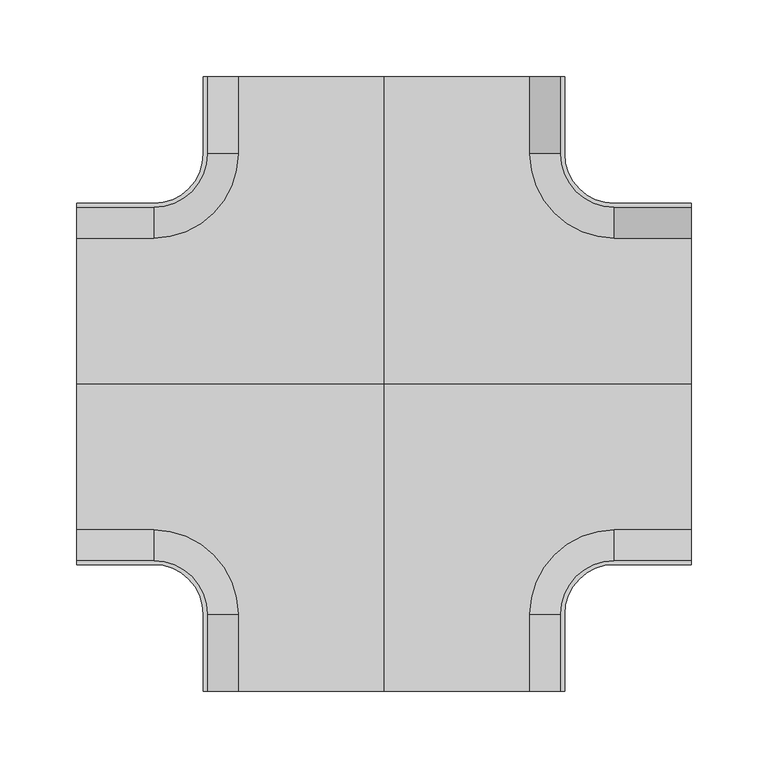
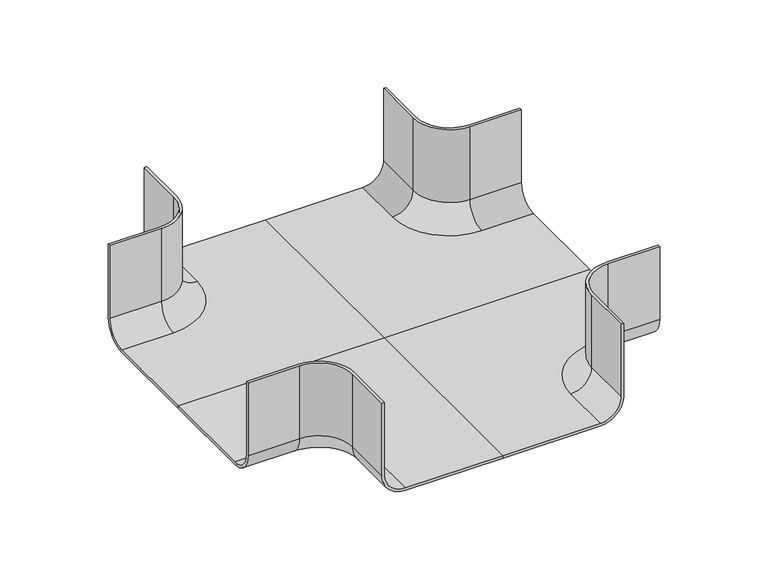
"""IFC4 building model written with IfcOpenShell, lengths in millimetres: cable carrier fitting geometry, CCT_Hyperline_FBTR-CRS_Ответвитель крестообразный пластиковый : Ответвитель крестообразный пластиковый."""

from ifc_helpers import new_model, si_unit, point, frame, origin, place, context, project, spatial, polyline, circle_curve, ellipse_curve, trimmed, source, transform, mapped, element, save
from ifc_brep_helpers import plane_surface, cylinder_surface, revolved_surface, advanced_brep


def cable_carrier_fitting_acd78cd3(model_context):
    return source(origin(), model_context, "Body", "AdvancedBrep", [
        advanced_brep(
        [(-200.0, -117.54, -25.0), (-200.0, -117.54, 50.0), (-200.0, -115.0, 50.0), (-200.0, -115.0, -25.0), (-200.0, -95.0, -45.0), (-200.0, 0.0, -45.0), (-200.0, 0.0, -47.54), (-200.0, -95.0, -47.54), (-150.0, -95.0, -47.54), (-150.0, -117.54, -25.0), (-150.0, -115.0, -25.0), (-150.0, -95.0, -45.0), (-150.0, -115.0, 50.0), (-150.0, -117.54, 50.0), (-117.54, -150.0, 50.0), (-117.54, -200.0, 50.0), (-115.0, -200.0, 50.0), (-115.0, -150.0, 50.0), (-95.0, -150.0, -47.54), (-117.54, -150.0, -25.0), (-115.0, -150.0, -25.0), (-95.0, -150.0, -45.0), (0.0, -200.0, -47.54), (0.0, -200.0, -45.0), (-95.0, -200.0, -45.0), (-115.0, -200.0, -25.0), (-117.54, -200.0, -25.0), (-95.0, -200.0, -47.54), (0.0, 0.0, -45.0), (0.0, 0.0, -47.54)],
        [
            (0, 1),
            (1, 2),
            (2, 3),
            (3, 4, circle_curve(frame((-200.0, -95.0, -25.0), z_axis=(1.0, 0.0, 0.0), x_axis=(0.0, -1.0, 0.0)), 20.0)),
            (4, 5),
            (5, 6),
            (6, 7),
            (7, 0, circle_curve(frame((-200.0, -95.0, -25.0), z_axis=(-1.0, 0.0, 0.0), x_axis=(0.0, -1.0, 0.0)), 22.54)),
            (7, 8),
            (8, 9, circle_curve(frame((-150.0, -95.0, -25.0), z_axis=(-1.0, 0.0, 0.0), x_axis=(0.0, -1.0, 0.0)), 22.54)),
            (9, 0),
            (3, 10),
            (10, 11, circle_curve(frame((-150.0, -95.0, -25.0), z_axis=(1.0, 0.0, 0.0), x_axis=(0.0, -1.0, 0.0)), 20.0)),
            (11, 4),
            (2, 12),
            (12, 10),
            (1, 13),
            (13, 14, circle_curve(frame((-150.0, -150.0, 50.0), z_axis=(0.0, 0.0, -1.0), x_axis=(0.0, 1.0, 0.0)), 32.46)),
            (14, 15),
            (15, 16),
            (16, 17),
            (17, 12, circle_curve(frame((-150.0, -150.0, 50.0), z_axis=(0.0, 0.0, 1.0), x_axis=(0.0, 1.0, 0.0)), 35.0)),
            (9, 13),
            (8, 18, circle_curve(frame((-150.0, -150.0, -47.54), z_axis=(0.0, 0.0, -1.0), x_axis=(0.0, 1.0, 0.0)), 55.0)),
            (18, 19, circle_curve(frame((-95.0, -150.0, -25.0), z_axis=(0.0, 1.0, 0.0), x_axis=(-1.0, 0.0, 0.0)), 22.54)),
            (19, 9, circle_curve(frame((-150.0, -150.0, -25.0), z_axis=(0.0, 0.0, 1.0), x_axis=(0.0, 1.0, 0.0)), 32.46)),
            (10, 20, circle_curve(frame((-150.0, -150.0, -25.0), z_axis=(0.0, 0.0, -1.0), x_axis=(0.0, 1.0, 0.0)), 35.0)),
            (20, 21, circle_curve(frame((-95.0, -150.0, -25.0), z_axis=(0.0, -1.0, 0.0), x_axis=(-1.0, 0.0, 0.0)), 20.0)),
            (21, 11, circle_curve(frame((-150.0, -150.0, -45.0), z_axis=(0.0, 0.0, 1.0), x_axis=(0.0, 1.0, 0.0)), 55.0)),
            (17, 20),
            (19, 14),
            (22, 23),
            (23, 24),
            (24, 25, circle_curve(frame((-95.0, -200.0, -25.0), z_axis=(0.0, 1.0, 0.0), x_axis=(-1.0, 0.0, 0.0)), 20.0)),
            (25, 16),
            (15, 26),
            (26, 27, circle_curve(frame((-95.0, -200.0, -25.0), z_axis=(0.0, -1.0, 0.0), x_axis=(-1.0, 0.0, 0.0)), 22.54)),
            (27, 22),
            (26, 19),
            (18, 27),
            (20, 25),
            (24, 21),
            (23, 28),
            (28, 5),
            (6, 29),
            (29, 22),
            (28, 29),
        ],
        [
            plane_surface(frame((-200.0, -115.0, 0.0), z_axis=(-1.0, 0.0, 0.0), x_axis=(0.0, 0.0, 1.0))),
            cylinder_surface(frame((-200.0, -95.0, -25.0), z_axis=(-1.0, 0.0, 0.0), x_axis=(0.0, -1.0, 0.0)), 22.54),
            revolved_surface(polyline([(-150.0, -115.0, -25.0), (-200.0, -115.0, -25.0)]), (-200.0, -95.0, -25.0), (1.0, 0.0, 0.0)),
            plane_surface(frame((-200.0, -115.0, -25.0), z_axis=(0.0, 1.0, 0.0), x_axis=(1.0, 0.0, 0.0))),
            plane_surface(frame((-200.0, -115.0, 50.0), z_axis=(0.0, 0.0, 1.0), x_axis=(1.0, 0.0, 0.0))),
            plane_surface(frame((-200.0, -117.54, 50.0), z_axis=(0.0, -1.0, 0.0), x_axis=(1.0, 0.0, 0.0))),
            revolved_surface(trimmed(ellipse_curve(frame((-150.0, -95.0, -25.0), z_axis=(1.0, 0.0, 0.0), x_axis=(0.0, -1.0, 0.0)), 22.54, 22.54), [point((-150.0, -117.54, -25.0))], [point((-150.0, -95.0, -47.54))], True, "CARTESIAN"), (-150.0, -150.0, 0.0), (0.0, 0.0, 1.0)),
            revolved_surface(trimmed(ellipse_curve(frame((-150.0, -95.0, -25.0), z_axis=(-1.0, 0.0, 0.0), x_axis=(0.0, -1.0, 0.0)), 20.0, 20.0), [point((-150.0, -95.0, -45.0))], [point((-150.0, -115.0, -25.0))], True, "CARTESIAN"), (-150.0, -150.0, 0.0), (0.0, 0.0, 1.0)),
            cylinder_surface(frame((-150.0, -150.0, 0.0), z_axis=(0.0, 0.0, 1.0), x_axis=(0.0, 1.0, 0.0)), 35.0),
            revolved_surface(polyline([(-150.0, -117.53999999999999, 50.0), (-150.0, -117.53999999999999, -25.0)]), (-150.0, -150.0, 0.0), (0.0, 0.0, 1.0)),
            plane_surface(frame((-115.0, -200.0, 0.0), z_axis=(0.0, -1.0, 0.0), x_axis=(0.0, 0.0, 1.0))),
            cylinder_surface(frame((-95.0, -150.0, -25.0), z_axis=(0.0, 1.0, 0.0), x_axis=(-1.0, 0.0, 0.0)), 22.54),
            revolved_surface(polyline([(-115.0, -200.0, -25.0), (-115.0, -150.0, -25.0)]), (-95.0, -150.0, -25.0), (0.0, -1.0, 0.0)),
            plane_surface(frame((-115.0, -150.0, -25.0), z_axis=(1.0, 0.0, 0.0), x_axis=(0.0, -1.0, 0.0))),
            plane_surface(frame((-117.54, -150.0, 50.0), z_axis=(-1.0, 0.0, 0.0), x_axis=(0.0, -1.0, 0.0))),
            plane_surface(frame((0.0, -150.0, -45.0), z_axis=(0.0, 0.0, 1.0), x_axis=(0.0, 1.0, 0.0))),
            plane_surface(frame((0.0, -150.0, -47.54), z_axis=(0.0, 0.0, -1.0), x_axis=(0.0, -1.0, 0.0))),
            plane_surface(frame((-150.0, 0.0, -45.0), z_axis=(0.0, 1.0, 0.0), x_axis=(0.0, 0.0, -1.0))),
            plane_surface(frame((0.0, 0.0, -45.0), z_axis=(1.0, 0.0, 0.0), x_axis=(0.0, 0.0, -1.0))),
        ],
        [
            (0, [[1, 2, 3, 4, 5, 6, 7, 8]]),
            (1, [[9, 10, 11, -8]]),
            (2, [[12, 13, 14, -4]]),
            (3, [[15, 16, -12, -3]]),
            (4, [[17, 18, 19, 20, 21, 22, -15, -2]]),
            (5, [[-11, 23, -17, -1]]),
            (6, [[24, 25, 26, -10]]),
            (7, [[-13, 27, 28, 29]]),
            (8, [[-22, 30, -27, -16]]),
            (9, [[-23, -26, 31, -18]]),
            (10, [[32, 33, 34, 35, -20, 36, 37, 38]]),
            (11, [[-37, 39, -25, 40]]),
            (12, [[-28, 41, -34, 42]]),
            (13, [[-35, -41, -30, -21]]),
            (14, [[-31, -39, -36, -19]]),
            (15, [[43, 44, -5, -14, -29, -42, -33]]),
            (16, [[45, 46, -38, -40, -24, -9, -7]]),
            (17, [[47, -45, -6, -44]]),
            (18, [[-32, -46, -47, -43]]),
        ],
    ),
        advanced_brep(
        [(200.0, -117.54, -25.0), (200.0, -95.0, -47.54), (200.0, 0.0, -47.54), (200.0, 0.0, -45.0), (200.0, -95.0, -45.0), (200.0, -115.0, -25.0), (200.0, -115.0, 50.0), (200.0, -117.54, 50.0), (150.0, -117.54, -25.0), (150.0, -95.0, -47.54), (150.0, -95.0, -45.0), (150.0, -115.0, -25.0), (150.0, -115.0, 50.0), (115.0, -150.0, 50.0), (115.0, -200.0, 50.0), (117.54, -200.0, 50.0), (117.54, -150.0, 50.0), (150.0, -117.54, 50.0), (117.54, -150.0, -25.0), (95.0, -150.0, -47.54), (95.0, -150.0, -45.0), (115.0, -150.0, -25.0), (0.0, -200.0, -47.54), (95.0, -200.0, -47.54), (117.54, -200.0, -25.0), (115.0, -200.0, -25.0), (95.0, -200.0, -45.0), (0.0, -200.0, -45.0), (0.0, 0.0, -45.0), (0.0, 0.0, -47.54)],
        [
            (0, 1, circle_curve(frame((200.0, -95.0, -25.0), z_axis=(1.0, 0.0, 0.0), x_axis=(0.0, -1.0, 0.0)), 22.54)),
            (1, 2),
            (2, 3),
            (3, 4),
            (4, 5, circle_curve(frame((200.0, -95.0, -25.0), z_axis=(-1.0, 0.0, 0.0), x_axis=(0.0, -1.0, 0.0)), 20.0)),
            (5, 6),
            (6, 7),
            (7, 0),
            (0, 8),
            (8, 9, circle_curve(frame((150.0, -95.0, -25.0), z_axis=(1.0, 0.0, 0.0), x_axis=(0.0, -1.0, 0.0)), 22.54)),
            (9, 1),
            (4, 10),
            (10, 11, circle_curve(frame((150.0, -95.0, -25.0), z_axis=(-1.0, 0.0, 0.0), x_axis=(0.0, -1.0, 0.0)), 20.0)),
            (11, 5),
            (11, 12),
            (12, 6),
            (12, 13, circle_curve(frame((150.0, -150.0, 50.0), z_axis=(0.0, 0.0, 1.0), x_axis=(0.0, 1.0, 0.0)), 35.0)),
            (13, 14),
            (14, 15),
            (15, 16),
            (16, 17, circle_curve(frame((150.0, -150.0, 50.0), z_axis=(0.0, 0.0, -1.0), x_axis=(0.0, 1.0, 0.0)), 32.46)),
            (17, 7),
            (17, 8),
            (8, 18, circle_curve(frame((150.0, -150.0, -25.0), z_axis=(0.0, 0.0, 1.0), x_axis=(0.0, 1.0, 0.0)), 32.46)),
            (18, 19, circle_curve(frame((95.0, -150.0, -25.0), z_axis=(0.0, 1.0, 0.0), x_axis=(1.0, 0.0, 0.0)), 22.54)),
            (19, 9, circle_curve(frame((150.0, -150.0, -47.54), z_axis=(0.0, 0.0, -1.0), x_axis=(0.0, 1.0, 0.0)), 55.0)),
            (10, 20, circle_curve(frame((150.0, -150.0, -45.0), z_axis=(0.0, 0.0, 1.0), x_axis=(0.0, 1.0, 0.0)), 55.0)),
            (20, 21, circle_curve(frame((95.0, -150.0, -25.0), z_axis=(0.0, -1.0, 0.0), x_axis=(1.0, 0.0, 0.0)), 20.0)),
            (21, 11, circle_curve(frame((150.0, -150.0, -25.0), z_axis=(0.0, 0.0, -1.0), x_axis=(0.0, 1.0, 0.0)), 35.0)),
            (21, 13),
            (16, 18),
            (22, 23),
            (23, 24, circle_curve(frame((95.0, -200.0, -25.0), z_axis=(0.0, -1.0, 0.0), x_axis=(1.0, 0.0, 0.0)), 22.54)),
            (24, 15),
            (14, 25),
            (25, 26, circle_curve(frame((95.0, -200.0, -25.0), z_axis=(0.0, 1.0, 0.0), x_axis=(1.0, 0.0, 0.0)), 20.0)),
            (26, 27),
            (27, 22),
            (23, 19),
            (18, 24),
            (20, 26),
            (25, 21),
            (3, 28),
            (28, 27),
            (22, 29),
            (29, 2),
            (29, 28),
        ],
        [
            plane_surface(frame((200.0, -115.0, 0.0), z_axis=(1.0, 0.0, 0.0), x_axis=(0.0, 0.0, 1.0))),
            cylinder_surface(frame((200.0, -95.0, -25.0), z_axis=(1.0, 0.0, 0.0), x_axis=(0.0, -1.0, 0.0)), 22.54),
            revolved_surface(polyline([(150.0, -115.0, -25.0), (200.0, -115.0, -25.0)]), (200.0, -95.0, -25.0), (-1.0, 0.0, 0.0)),
            plane_surface(frame((200.0, -115.0, -25.0), z_axis=(0.0, 1.0, 0.0), x_axis=(-1.0, 0.0, 0.0))),
            plane_surface(frame((200.0, -115.0, 50.0), z_axis=(0.0, 0.0, 1.0), x_axis=(-1.0, 0.0, 0.0))),
            plane_surface(frame((200.0, -117.54, 50.0), z_axis=(0.0, -1.0, 0.0), x_axis=(-1.0, 0.0, 0.0))),
            revolved_surface(trimmed(ellipse_curve(frame((150.0, -95.0, -25.0), z_axis=(1.0, 0.0, 0.0), x_axis=(0.0, -1.0, 0.0)), 22.54, 22.54), [point((150.0, -117.54, -25.0))], [point((150.0, -95.0, -47.54))], True, "CARTESIAN"), (150.0, -150.0, 0.0), (0.0, 0.0, 1.0)),
            revolved_surface(trimmed(ellipse_curve(frame((150.0, -95.0, -25.0), z_axis=(-1.0, 0.0, 0.0), x_axis=(0.0, -1.0, 0.0)), 20.0, 20.0), [point((150.0, -95.0, -45.0))], [point((150.0, -115.0, -25.0))], True, "CARTESIAN"), (150.0, -150.0, 0.0), (0.0, 0.0, 1.0)),
            cylinder_surface(frame((150.0, -150.0, 0.0), z_axis=(0.0, 0.0, 1.0), x_axis=(0.0, 1.0, 0.0)), 35.0),
            revolved_surface(polyline([(150.0, -117.53999999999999, 50.0), (150.0, -117.53999999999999, -25.0)]), (150.0, -150.0, 0.0), (0.0, 0.0, 1.0)),
            plane_surface(frame((115.0, -200.0, 0.0), z_axis=(0.0, -1.0, 0.0), x_axis=(0.0, 0.0, 1.0))),
            cylinder_surface(frame((95.0, -150.0, -25.0), z_axis=(0.0, 1.0, 0.0), x_axis=(1.0, 0.0, 0.0)), 22.54),
            revolved_surface(polyline([(115.0, -200.0, -25.0), (115.0, -150.0, -25.0)]), (95.0, -150.0, -25.0), (0.0, -1.0, 0.0)),
            plane_surface(frame((115.0, -150.0, -25.0), z_axis=(-1.0, 0.0, 0.0), x_axis=(0.0, -1.0, 0.0))),
            plane_surface(frame((117.54, -150.0, 50.0), z_axis=(1.0, 0.0, 0.0), x_axis=(0.0, -1.0, 0.0))),
            plane_surface(frame((0.0, -150.0, -45.0), z_axis=(0.0, 0.0, 1.0), x_axis=(0.0, 1.0, 0.0))),
            plane_surface(frame((0.0, -150.0, -47.54), z_axis=(0.0, 0.0, -1.0), x_axis=(0.0, -1.0, 0.0))),
            plane_surface(frame((150.0, 0.0, -45.0), z_axis=(0.0, 1.0, 0.0), x_axis=(0.0, 0.0, -1.0))),
            plane_surface(frame((0.0, 0.0, -45.0), z_axis=(-1.0, 0.0, 0.0), x_axis=(0.0, 0.0, -1.0))),
        ],
        [
            (0, [[1, 2, 3, 4, 5, 6, 7, 8]]),
            (1, [[-1, 9, 10, 11]]),
            (2, [[-5, 12, 13, 14]]),
            (3, [[-6, -14, 15, 16]]),
            (4, [[-7, -16, 17, 18, 19, 20, 21, 22]]),
            (5, [[-8, -22, 23, -9]]),
            (6, [[-10, 24, 25, 26]]),
            (7, [[27, 28, 29, -13]]),
            (8, [[-15, -29, 30, -17]]),
            (9, [[-21, 31, -24, -23]]),
            (10, [[32, 33, 34, -19, 35, 36, 37, 38]]),
            (11, [[39, -25, 40, -33]]),
            (12, [[41, -36, 42, -28]]),
            (13, [[-18, -30, -42, -35]]),
            (14, [[-20, -34, -40, -31]]),
            (15, [[-37, -41, -27, -12, -4, 43, 44]]),
            (16, [[-2, -11, -26, -39, -32, 45, 46]]),
            (17, [[-43, -3, -46, 47]]),
            (18, [[-44, -47, -45, -38]]),
        ],
    ),
        advanced_brep(
        [(-200.0, 117.54, -25.0), (-200.0, 95.0, -47.54), (-200.0, 0.0, -47.54), (-200.0, 0.0, -45.0), (-200.0, 95.0, -45.0), (-200.0, 115.0, -25.0), (-200.0, 115.0, 50.0), (-200.0, 117.54, 50.0), (-150.0, 117.54, -25.0), (-150.0, 95.0, -47.54), (-150.0, 95.0, -45.0), (-150.0, 115.0, -25.0), (-150.0, 115.0, 50.0), (-115.0, 150.0, 50.0), (-115.0, 200.0, 50.0), (-117.54, 200.0, 50.0), (-117.54, 150.0, 50.0), (-150.0, 117.54, 50.0), (-117.54, 150.0, -25.0), (-95.0, 150.0, -47.54), (-95.0, 150.0, -45.0), (-115.0, 150.0, -25.0), (0.0, 200.0, -47.54), (-95.0, 200.0, -47.54), (-117.54, 200.0, -25.0), (-115.0, 200.0, -25.0), (-95.0, 200.0, -45.0), (0.0, 200.0, -45.0), (0.0, 0.0, -45.0), (0.0, 0.0, -47.54)],
        [
            (0, 1, circle_curve(frame((-200.0, 95.0, -25.0), z_axis=(-1.0, 0.0, 0.0), x_axis=(0.0, 1.0, 0.0)), 22.54)),
            (1, 2),
            (2, 3),
            (3, 4),
            (4, 5, circle_curve(frame((-200.0, 95.0, -25.0), z_axis=(1.0, 0.0, 0.0), x_axis=(0.0, 1.0, 0.0)), 20.0)),
            (5, 6),
            (6, 7),
            (7, 0),
            (0, 8),
            (8, 9, circle_curve(frame((-150.0, 95.0, -25.0), z_axis=(-1.0, 0.0, 0.0), x_axis=(0.0, 1.0, 0.0)), 22.54)),
            (9, 1),
            (4, 10),
            (10, 11, circle_curve(frame((-150.0, 95.0, -25.0), z_axis=(1.0, 0.0, 0.0), x_axis=(0.0, 1.0, 0.0)), 20.0)),
            (11, 5),
            (11, 12),
            (12, 6),
            (12, 13, circle_curve(frame((-150.0, 150.0, 50.0), z_axis=(0.0, 0.0, 1.0), x_axis=(0.0, -1.0, 0.0)), 35.0)),
            (13, 14),
            (14, 15),
            (15, 16),
            (16, 17, circle_curve(frame((-150.0, 150.0, 50.0), z_axis=(0.0, 0.0, -1.0), x_axis=(0.0, -1.0, 0.0)), 32.46)),
            (17, 7),
            (17, 8),
            (8, 18, circle_curve(frame((-150.0, 150.0, -25.0), z_axis=(0.0, 0.0, 1.0), x_axis=(0.0, -1.0, 0.0)), 32.46)),
            (18, 19, circle_curve(frame((-95.0, 150.0, -25.0), z_axis=(0.0, -1.0, 0.0), x_axis=(-1.0, 0.0, 0.0)), 22.54)),
            (19, 9, circle_curve(frame((-150.0, 150.0, -47.54), z_axis=(0.0, 0.0, -1.0), x_axis=(0.0, -1.0, 0.0)), 55.0)),
            (10, 20, circle_curve(frame((-150.0, 150.0, -45.0), z_axis=(0.0, 0.0, 1.0), x_axis=(0.0, -1.0, 0.0)), 55.0)),
            (20, 21, circle_curve(frame((-95.0, 150.0, -25.0), z_axis=(0.0, 1.0, 0.0), x_axis=(-1.0, 0.0, 0.0)), 20.0)),
            (21, 11, circle_curve(frame((-150.0, 150.0, -25.0), z_axis=(0.0, 0.0, -1.0), x_axis=(0.0, -1.0, 0.0)), 35.0)),
            (21, 13),
            (16, 18),
            (22, 23),
            (23, 24, circle_curve(frame((-95.0, 200.0, -25.0), z_axis=(0.0, 1.0, 0.0), x_axis=(-1.0, 0.0, 0.0)), 22.54)),
            (24, 15),
            (14, 25),
            (25, 26, circle_curve(frame((-95.0, 200.0, -25.0), z_axis=(0.0, -1.0, 0.0), x_axis=(-1.0, 0.0, 0.0)), 20.0)),
            (26, 27),
            (27, 22),
            (23, 19),
            (18, 24),
            (20, 26),
            (25, 21),
            (3, 28),
            (28, 27),
            (22, 29),
            (29, 2),
            (29, 28),
        ],
        [
            plane_surface(frame((-200.0, 115.0, 0.0), z_axis=(-1.0, 0.0, 0.0), x_axis=(0.0, 0.0, 1.0))),
            cylinder_surface(frame((-200.0, 95.0, -25.0), z_axis=(-1.0, 0.0, 0.0), x_axis=(0.0, 1.0, 0.0)), 22.54),
            revolved_surface(polyline([(-150.0, 115.0, -25.0), (-200.0, 115.0, -25.0)]), (-200.0, 95.0, -25.0), (1.0, 0.0, 0.0)),
            plane_surface(frame((-200.0, 115.0, -25.0), z_axis=(0.0, -1.0, 0.0), x_axis=(1.0, 0.0, 0.0))),
            plane_surface(frame((-200.0, 115.0, 50.0), z_axis=(0.0, 0.0, 1.0), x_axis=(1.0, 0.0, 0.0))),
            plane_surface(frame((-200.0, 117.54, 50.0), z_axis=(0.0, 1.0, 0.0), x_axis=(1.0, 0.0, 0.0))),
            revolved_surface(trimmed(ellipse_curve(frame((-150.0, 95.0, -25.0), z_axis=(-1.0, 0.0, 0.0), x_axis=(0.0, 1.0, 0.0)), 22.54, 22.54), [point((-150.0, 117.54, -25.0))], [point((-150.0, 95.0, -47.54))], True, "CARTESIAN"), (-150.0, 150.0, 0.0), (0.0, 0.0, 1.0)),
            revolved_surface(trimmed(ellipse_curve(frame((-150.0, 95.0, -25.0), z_axis=(1.0, 0.0, 0.0), x_axis=(0.0, 1.0, 0.0)), 20.0, 20.0), [point((-150.0, 95.0, -45.0))], [point((-150.0, 115.0, -25.0))], True, "CARTESIAN"), (-150.0, 150.0, 0.0), (0.0, 0.0, 1.0)),
            cylinder_surface(frame((-150.0, 150.0, 0.0), z_axis=(0.0, 0.0, 1.0), x_axis=(0.0, -1.0, 0.0)), 35.0),
            revolved_surface(polyline([(-150.0, 117.53999999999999, 50.0), (-150.0, 117.53999999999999, -25.0)]), (-150.0, 150.0, 0.0), (0.0, 0.0, 1.0)),
            plane_surface(frame((-115.0, 200.0, 0.0), z_axis=(0.0, 1.0, 0.0), x_axis=(0.0, 0.0, 1.0))),
            cylinder_surface(frame((-95.0, 150.0, -25.0), z_axis=(0.0, -1.0, 0.0), x_axis=(-1.0, 0.0, 0.0)), 22.54),
            revolved_surface(polyline([(-115.0, 200.0, -25.0), (-115.0, 150.0, -25.0)]), (-95.0, 150.0, -25.0), (0.0, 1.0, 0.0)),
            plane_surface(frame((-115.0, 150.0, -25.0), z_axis=(1.0, 0.0, 0.0), x_axis=(0.0, 1.0, 0.0))),
            plane_surface(frame((-117.54, 150.0, 50.0), z_axis=(-1.0, 0.0, 0.0), x_axis=(0.0, 1.0, 0.0))),
            plane_surface(frame((0.0, 150.0, -45.0), z_axis=(0.0, 0.0, 1.0), x_axis=(0.0, -1.0, 0.0))),
            plane_surface(frame((0.0, 150.0, -47.54), z_axis=(0.0, 0.0, -1.0), x_axis=(0.0, 1.0, 0.0))),
            plane_surface(frame((-150.0, 0.0, -45.0), z_axis=(0.0, -1.0, 0.0), x_axis=(0.0, 0.0, -1.0))),
            plane_surface(frame((0.0, 0.0, -45.0), z_axis=(1.0, 0.0, 0.0), x_axis=(0.0, 0.0, -1.0))),
        ],
        [
            (0, [[1, 2, 3, 4, 5, 6, 7, 8]]),
            (1, [[-1, 9, 10, 11]]),
            (2, [[-5, 12, 13, 14]]),
            (3, [[-6, -14, 15, 16]]),
            (4, [[-7, -16, 17, 18, 19, 20, 21, 22]]),
            (5, [[-8, -22, 23, -9]]),
            (6, [[-10, 24, 25, 26]]),
            (7, [[27, 28, 29, -13]]),
            (8, [[-15, -29, 30, -17]]),
            (9, [[-21, 31, -24, -23]]),
            (10, [[32, 33, 34, -19, 35, 36, 37, 38]]),
            (11, [[39, -25, 40, -33]]),
            (12, [[41, -36, 42, -28]]),
            (13, [[-18, -30, -42, -35]]),
            (14, [[-20, -34, -40, -31]]),
            (15, [[-37, -41, -27, -12, -4, 43, 44]]),
            (16, [[-2, -11, -26, -39, -32, 45, 46]]),
            (17, [[-43, -3, -46, 47]]),
            (18, [[-44, -47, -45, -38]]),
        ],
    ),
        advanced_brep(
        [(200.0, 117.54, -25.0), (200.0, 117.54, 50.0), (200.0, 115.0, 50.0), (200.0, 115.0, -25.0), (200.0, 95.0, -45.0), (200.0, 0.0, -45.0), (200.0, 0.0, -47.54), (200.0, 95.0, -47.54), (150.0, 95.0, -47.54), (150.0, 117.54, -25.0), (150.0, 115.0, -25.0), (150.0, 95.0, -45.0), (150.0, 115.0, 50.0), (150.0, 117.54, 50.0), (117.54, 150.0, 50.0), (117.54, 200.0, 50.0), (115.0, 200.0, 50.0), (115.0, 150.0, 50.0), (95.0, 150.0, -47.54), (117.54, 150.0, -25.0), (115.0, 150.0, -25.0), (95.0, 150.0, -45.0), (0.0, 200.0, -47.54), (0.0, 200.0, -45.0), (95.0, 200.0, -45.0), (115.0, 200.0, -25.0), (117.54, 200.0, -25.0), (95.0, 200.0, -47.54), (0.0, 0.0, -45.0), (0.0, 0.0, -47.54)],
        [
            (0, 1),
            (1, 2),
            (2, 3),
            (3, 4, circle_curve(frame((200.0, 95.0, -25.0), z_axis=(-1.0, 0.0, 0.0), x_axis=(0.0, 1.0, 0.0)), 20.0)),
            (4, 5),
            (5, 6),
            (6, 7),
            (7, 0, circle_curve(frame((200.0, 95.0, -25.0), z_axis=(1.0, 0.0, 0.0), x_axis=(0.0, 1.0, 0.0)), 22.54)),
            (7, 8),
            (8, 9, circle_curve(frame((150.0, 95.0, -25.0), z_axis=(1.0, 0.0, 0.0), x_axis=(0.0, 1.0, 0.0)), 22.54)),
            (9, 0),
            (3, 10),
            (10, 11, circle_curve(frame((150.0, 95.0, -25.0), z_axis=(-1.0, 0.0, 0.0), x_axis=(0.0, 1.0, 0.0)), 20.0)),
            (11, 4),
            (2, 12),
            (12, 10),
            (1, 13),
            (13, 14, circle_curve(frame((150.0, 150.0, 50.0), z_axis=(0.0, 0.0, -1.0), x_axis=(0.0, -1.0, 0.0)), 32.46)),
            (14, 15),
            (15, 16),
            (16, 17),
            (17, 12, circle_curve(frame((150.0, 150.0, 50.0), z_axis=(0.0, 0.0, 1.0), x_axis=(0.0, -1.0, 0.0)), 35.0)),
            (9, 13),
            (8, 18, circle_curve(frame((150.0, 150.0, -47.54), z_axis=(0.0, 0.0, -1.0), x_axis=(0.0, -1.0, 0.0)), 55.0)),
            (18, 19, circle_curve(frame((95.0, 150.0, -25.0), z_axis=(0.0, -1.0, 0.0), x_axis=(1.0, 0.0, 0.0)), 22.54)),
            (19, 9, circle_curve(frame((150.0, 150.0, -25.0), z_axis=(0.0, 0.0, 1.0), x_axis=(0.0, -1.0, 0.0)), 32.46)),
            (10, 20, circle_curve(frame((150.0, 150.0, -25.0), z_axis=(0.0, 0.0, -1.0), x_axis=(0.0, -1.0, 0.0)), 35.0)),
            (20, 21, circle_curve(frame((95.0, 150.0, -25.0), z_axis=(0.0, 1.0, 0.0), x_axis=(1.0, 0.0, 0.0)), 20.0)),
            (21, 11, circle_curve(frame((150.0, 150.0, -45.0), z_axis=(0.0, 0.0, 1.0), x_axis=(0.0, -1.0, 0.0)), 55.0)),
            (17, 20),
            (19, 14),
            (22, 23),
            (23, 24),
            (24, 25, circle_curve(frame((95.0, 200.0, -25.0), z_axis=(0.0, -1.0, 0.0), x_axis=(1.0, 0.0, 0.0)), 20.0)),
            (25, 16),
            (15, 26),
            (26, 27, circle_curve(frame((95.0, 200.0, -25.0), z_axis=(0.0, 1.0, 0.0), x_axis=(1.0, 0.0, 0.0)), 22.54)),
            (27, 22),
            (26, 19),
            (18, 27),
            (20, 25),
            (24, 21),
            (23, 28),
            (28, 5),
            (6, 29),
            (29, 22),
            (28, 29),
        ],
        [
            plane_surface(frame((200.0, 115.0, 0.0), z_axis=(1.0, 0.0, 0.0), x_axis=(0.0, 0.0, 1.0))),
            cylinder_surface(frame((200.0, 95.0, -25.0), z_axis=(1.0, 0.0, 0.0), x_axis=(0.0, 1.0, 0.0)), 22.54),
            revolved_surface(polyline([(150.0, 115.0, -25.0), (200.0, 115.0, -25.0)]), (200.0, 95.0, -25.0), (-1.0, 0.0, 0.0)),
            plane_surface(frame((200.0, 115.0, -25.0), z_axis=(0.0, -1.0, 0.0), x_axis=(-1.0, 0.0, 0.0))),
            plane_surface(frame((200.0, 115.0, 50.0), z_axis=(0.0, 0.0, 1.0), x_axis=(-1.0, 0.0, 0.0))),
            plane_surface(frame((200.0, 117.54, 50.0), z_axis=(0.0, 1.0, 0.0), x_axis=(-1.0, 0.0, 0.0))),
            revolved_surface(trimmed(ellipse_curve(frame((150.0, 95.0, -25.0), z_axis=(-1.0, 0.0, 0.0), x_axis=(0.0, 1.0, 0.0)), 22.54, 22.54), [point((150.0, 117.54, -25.0))], [point((150.0, 95.0, -47.54))], True, "CARTESIAN"), (150.0, 150.0, 0.0), (0.0, 0.0, 1.0)),
            revolved_surface(trimmed(ellipse_curve(frame((150.0, 95.0, -25.0), z_axis=(1.0, 0.0, 0.0), x_axis=(0.0, 1.0, 0.0)), 20.0, 20.0), [point((150.0, 95.0, -45.0))], [point((150.0, 115.0, -25.0))], True, "CARTESIAN"), (150.0, 150.0, 0.0), (0.0, 0.0, 1.0)),
            cylinder_surface(frame((150.0, 150.0, 0.0), z_axis=(0.0, 0.0, 1.0), x_axis=(0.0, -1.0, 0.0)), 35.0),
            revolved_surface(polyline([(150.0, 117.53999999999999, 50.0), (150.0, 117.53999999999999, -25.0)]), (150.0, 150.0, 0.0), (0.0, 0.0, 1.0)),
            plane_surface(frame((115.0, 200.0, 0.0), z_axis=(0.0, 1.0, 0.0), x_axis=(0.0, 0.0, 1.0))),
            cylinder_surface(frame((95.0, 150.0, -25.0), z_axis=(0.0, -1.0, 0.0), x_axis=(1.0, 0.0, 0.0)), 22.54),
            revolved_surface(polyline([(115.0, 200.0, -25.0), (115.0, 150.0, -25.0)]), (95.0, 150.0, -25.0), (0.0, 1.0, 0.0)),
            plane_surface(frame((115.0, 150.0, -25.0), z_axis=(-1.0, 0.0, 0.0), x_axis=(0.0, 1.0, 0.0))),
            plane_surface(frame((117.54, 150.0, 50.0), z_axis=(1.0, 0.0, 0.0), x_axis=(0.0, 1.0, 0.0))),
            plane_surface(frame((0.0, 150.0, -45.0), z_axis=(0.0, 0.0, 1.0), x_axis=(0.0, -1.0, 0.0))),
            plane_surface(frame((0.0, 150.0, -47.54), z_axis=(0.0, 0.0, -1.0), x_axis=(0.0, 1.0, 0.0))),
            plane_surface(frame((150.0, 0.0, -45.0), z_axis=(0.0, -1.0, 0.0), x_axis=(0.0, 0.0, -1.0))),
            plane_surface(frame((0.0, 0.0, -45.0), z_axis=(-1.0, 0.0, 0.0), x_axis=(0.0, 0.0, -1.0))),
        ],
        [
            (0, [[1, 2, 3, 4, 5, 6, 7, 8]]),
            (1, [[9, 10, 11, -8]]),
            (2, [[12, 13, 14, -4]]),
            (3, [[15, 16, -12, -3]]),
            (4, [[17, 18, 19, 20, 21, 22, -15, -2]]),
            (5, [[-11, 23, -17, -1]]),
            (6, [[24, 25, 26, -10]]),
            (7, [[-13, 27, 28, 29]]),
            (8, [[-22, 30, -27, -16]]),
            (9, [[-23, -26, 31, -18]]),
            (10, [[32, 33, 34, 35, -20, 36, 37, 38]]),
            (11, [[-37, 39, -25, 40]]),
            (12, [[-28, 41, -34, 42]]),
            (13, [[-35, -41, -30, -21]]),
            (14, [[-31, -39, -36, -19]]),
            (15, [[43, 44, -5, -14, -29, -42, -33]]),
            (16, [[45, 46, -38, -40, -24, -9, -7]]),
            (17, [[47, -45, -6, -44]]),
            (18, [[-32, -46, -47, -43]]),
        ],
    ),
    ])


if __name__ == "__main__":
    model = new_model("IFC4")
    model_context = context("Model", 3, world=origin())
    ifc_project = project(units=[si_unit("LENGTHUNIT", "METRE", prefix="MILLI")], contexts=[model_context])
    site = spatial("IfcSite", under=ifc_project)
    building = spatial("IfcBuilding", under=site)
    placement = place(None, origin())
    cable_carrier_fitting_shape = cable_carrier_fitting_acd78cd3(model_context)
    element("IfcCableCarrierFitting", 1, ObjectType="CCT_Hyperline_FBTR-CRS_Ответвитель крестообразный пластиковый : Ответвитель крестообразный пластиковый", at=placement, inside=building, context=model_context, shape_type="MappedRepresentation", body=[
        mapped(cable_carrier_fitting_shape, transform((0.0, 0.0, 0.0), x_axis=(1.0, 0.0, 0.0), y_axis=(0.0, 1.0, 0.0), z_axis=(0.0, 0.0, 1.0))),
    ])
    save(model, "model.ifc")
